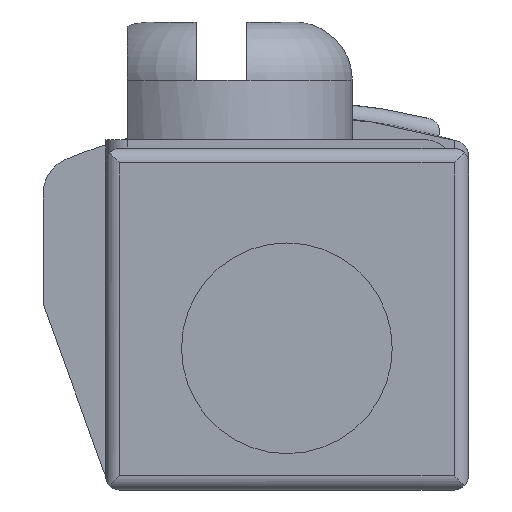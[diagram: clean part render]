
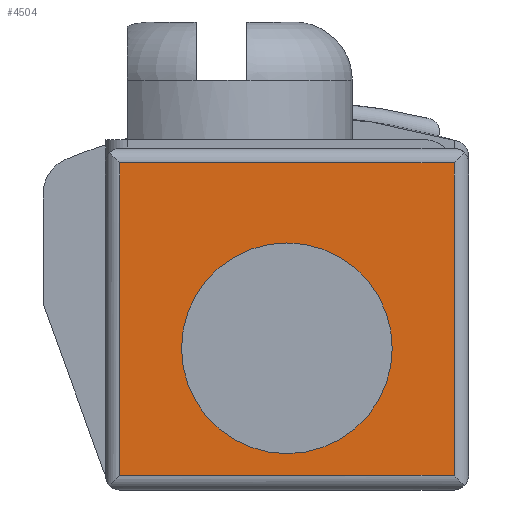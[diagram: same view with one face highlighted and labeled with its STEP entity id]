
A CAD part, left-side view. The second image highlights one B-rep face of the part: STEP entity #4504.
In plain terms, the highlighted planar face has unit normal (-1, 0, 0).
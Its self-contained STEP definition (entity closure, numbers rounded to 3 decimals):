
#136=CIRCLE('',#4691,1.45);
#248=ORIENTED_EDGE('',*,*,#1250,.F.);
#249=ORIENTED_EDGE('',*,*,#1251,.T.);
#250=ORIENTED_EDGE('',*,*,#1252,.F.);
#251=ORIENTED_EDGE('',*,*,#1253,.T.);
#252=ORIENTED_EDGE('',*,*,#1254,.T.);
#1250=EDGE_CURVE('',#1751,#1751,#136,.F.);
#1251=EDGE_CURVE('',#1752,#1753,#2080,.T.);
#1252=EDGE_CURVE('',#1754,#1753,#2081,.T.);
#1253=EDGE_CURVE('',#1754,#1755,#2082,.F.);
#1254=EDGE_CURVE('',#1755,#1752,#2083,.T.);
#1751=VERTEX_POINT('',#5983);
#1752=VERTEX_POINT('',#5985);
#1753=VERTEX_POINT('',#5986);
#1754=VERTEX_POINT('',#5988);
#1755=VERTEX_POINT('',#5990);
#2080=LINE('',#5984,#2425);
#2081=LINE('',#5987,#2426);
#2082=LINE('',#5989,#2427);
#2083=LINE('',#5991,#2428);
#2425=VECTOR('',#5013,1000.);
#2426=VECTOR('',#5014,1000.);
#2427=VECTOR('',#5015,1000.);
#2428=VECTOR('',#5016,1000.);
#2768=EDGE_LOOP('',(#248));
#2769=EDGE_LOOP('',(#249,#250,#251,#252));
#2955=FACE_BOUND('',#2768,.T.);
#2956=FACE_BOUND('',#2769,.T.);
#3142=PLANE('',#4690);
#4504=ADVANCED_FACE('',(#2955,#2956),#3142,.F.);
#4690=AXIS2_PLACEMENT_3D('',#5981,#5009,#5010);
#4691=AXIS2_PLACEMENT_3D('',#5982,#5011,#5012);
#5009=DIRECTION('',(1.,0.,0.));
#5010=DIRECTION('',(0.,0.,-1.));
#5011=DIRECTION('',(1.,0.,0.));
#5012=DIRECTION('',(0.,0.,-1.));
#5013=DIRECTION('',(0.,-1.,0.));
#5014=DIRECTION('',(0.,0.,-1.));
#5015=DIRECTION('',(0.,-1.,0.));
#5016=DIRECTION('',(0.,0.,-1.));
#5981=CARTESIAN_POINT('',(0.,2.3,2.653));
#5982=CARTESIAN_POINT('',(0.,0.,0.));
#5983=CARTESIAN_POINT('',(0.,0.,-1.45));
#5984=CARTESIAN_POINT('',(0.,8.,-1.75));
#5985=CARTESIAN_POINT('',(0.,2.3,-1.75));
#5986=CARTESIAN_POINT('',(0.,-2.3,-1.75));
#5987=CARTESIAN_POINT('',(0.,-2.3,25.));
#5988=CARTESIAN_POINT('',(0.,-2.3,2.55));
#5989=CARTESIAN_POINT('',(0.,10.,2.55));
#5990=CARTESIAN_POINT('',(0.,2.3,2.55));
#5991=CARTESIAN_POINT('',(0.,2.3,25.));
